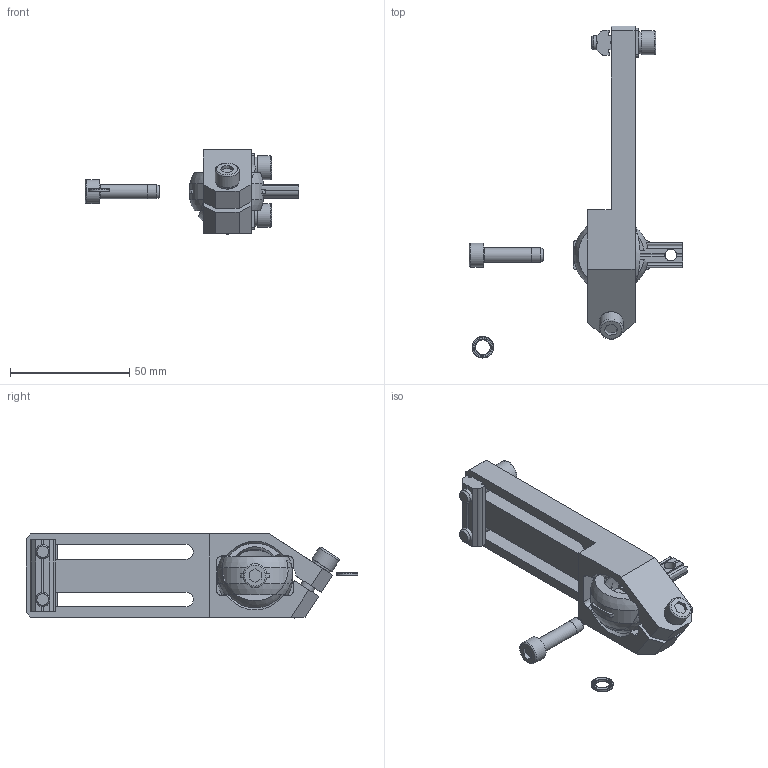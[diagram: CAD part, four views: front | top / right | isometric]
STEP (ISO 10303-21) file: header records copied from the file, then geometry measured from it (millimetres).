
FILE_DESCRIPTION( ( 'STEP AP214' ), '1' );
FILE_NAME( 'C:/Users/Segreteria/Desktop/CA.WSL.2060.G.X.stp', '2014-07-18T12:45:39', ( ' ' ), ( ' ' ), 'XStep 1.0', ' ', ' ' );
FILE_SCHEMA( ( 'CONFIG_CONTROL_DESIGN) ( )' ) );
Length unit declared in the file: metre
Products named in the file (12): Assem1; Assem2; WSL.2060.G; R.6.SCH; WSL.KG.JU.20.3; V-tcei M  6 x 25; R.06.20; CA.GWP.6.20; V-tcei M  6 x 22
Bounding box: 89.5 x 139.14 x 35.33 mm (x, y, z)
Volume: 121020.7 mm3; surface area: 66387.6 mm2
Topology: 17 solids, 24 shells, 1736 faces, 5066 edges, 3363 vertices
Faces by surface type: plane 1566, cylinder 125, cone 22, torus 14, sphere 9
Full cylindrical faces by diameter (mm): 4.917 x7, 6 x7, 6.2 x10, 6.3 x4, 9 x7, 10 x7
Entity records: 24639 total; most frequent: CARTESIAN_POINT 4361, DIRECTION 4252, ORIENTED_EDGE 4186, EDGE_CURVE 2093, AXIS2_PLACEMENT_3D 1436, VERTEX_POINT 1405, LINE 1380, VECTOR 1380
